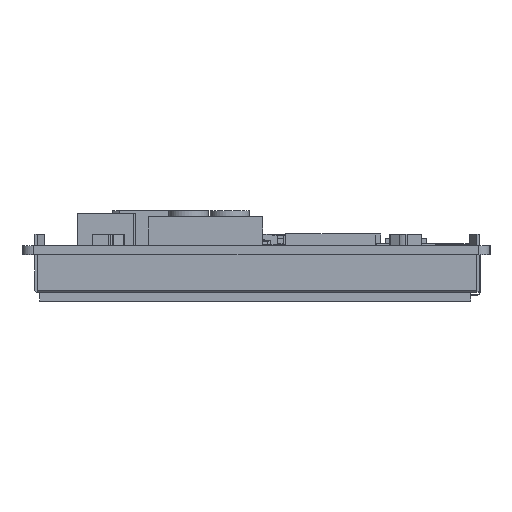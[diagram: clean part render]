
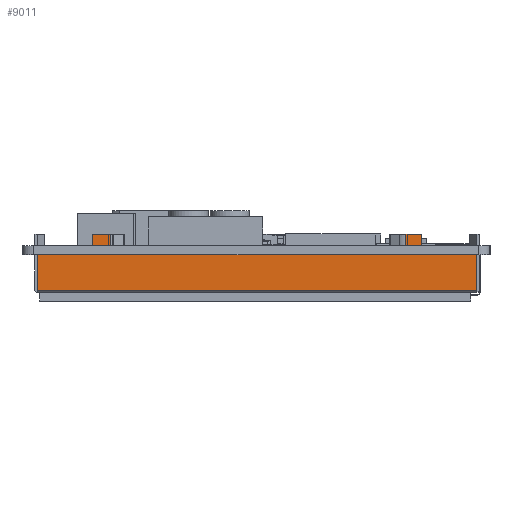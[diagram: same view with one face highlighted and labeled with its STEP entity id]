
A CAD part, left-side view. The second image highlights one B-rep face of the part: STEP entity #9011.
In plain terms, the highlighted planar face has unit normal (-1, 0, 0).
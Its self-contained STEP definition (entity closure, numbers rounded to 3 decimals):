
#4157=PLANE('',#55352);
#6555=FACE_OUTER_BOUND('',#12114,.T.);
#9011=ADVANCED_FACE('',(#6555),#4157,.F.);
#12114=EDGE_LOOP('',(#25189,#25190,#25191,#25192,#25193,#25194,#25195,#25196,
#25197,#25198,#25199,#25200,#25201,#25202,#25203,#25204));
#25189=ORIENTED_EDGE('',*,*,#37495,.F.);
#25190=ORIENTED_EDGE('',*,*,#37496,.T.);
#25191=ORIENTED_EDGE('',*,*,#37497,.T.);
#25192=ORIENTED_EDGE('',*,*,#37492,.T.);
#25193=ORIENTED_EDGE('',*,*,#37498,.T.);
#25194=ORIENTED_EDGE('',*,*,#37499,.F.);
#25195=ORIENTED_EDGE('',*,*,#37500,.T.);
#25196=ORIENTED_EDGE('',*,*,#37501,.F.);
#25197=ORIENTED_EDGE('',*,*,#37502,.F.);
#25198=ORIENTED_EDGE('',*,*,#37488,.T.);
#25199=ORIENTED_EDGE('',*,*,#37503,.T.);
#25200=ORIENTED_EDGE('',*,*,#37504,.T.);
#25201=ORIENTED_EDGE('',*,*,#37505,.F.);
#25202=ORIENTED_EDGE('',*,*,#37506,.F.);
#25203=ORIENTED_EDGE('',*,*,#37507,.F.);
#25204=ORIENTED_EDGE('',*,*,#37486,.T.);
#30651=VERTEX_POINT('',#82060);
#30653=VERTEX_POINT('',#82064);
#30654=VERTEX_POINT('',#82068);
#30656=VERTEX_POINT('',#82071);
#30658=VERTEX_POINT('',#82077);
#30660=VERTEX_POINT('',#82080);
#30662=VERTEX_POINT('',#82086);
#30663=VERTEX_POINT('',#82088);
#30664=VERTEX_POINT('',#82091);
#30665=VERTEX_POINT('',#82093);
#30666=VERTEX_POINT('',#82095);
#30667=VERTEX_POINT('',#82097);
#30668=VERTEX_POINT('',#82100);
#30669=VERTEX_POINT('',#82102);
#30670=VERTEX_POINT('',#82104);
#30671=VERTEX_POINT('',#82106);
#37486=EDGE_CURVE('',#30651,#30653,#44939,.T.);
#37488=EDGE_CURVE('',#30656,#30654,#44941,.T.);
#37492=EDGE_CURVE('',#30660,#30658,#44945,.T.);
#37495=EDGE_CURVE('',#30662,#30653,#44948,.T.);
#37496=EDGE_CURVE('',#30662,#30663,#44949,.T.);
#37497=EDGE_CURVE('',#30663,#30660,#44950,.T.);
#37498=EDGE_CURVE('',#30658,#30664,#44951,.T.);
#37499=EDGE_CURVE('',#30665,#30664,#44952,.T.);
#37500=EDGE_CURVE('',#30665,#30666,#44953,.T.);
#37501=EDGE_CURVE('',#30667,#30666,#44954,.T.);
#37502=EDGE_CURVE('',#30656,#30667,#44955,.T.);
#37503=EDGE_CURVE('',#30654,#30668,#44956,.T.);
#37504=EDGE_CURVE('',#30668,#30669,#44957,.T.);
#37505=EDGE_CURVE('',#30670,#30669,#44958,.T.);
#37506=EDGE_CURVE('',#30671,#30670,#44959,.T.);
#37507=EDGE_CURVE('',#30651,#30671,#44960,.T.);
#44939=LINE('',#82065,#51122);
#44941=LINE('',#82070,#51124);
#44945=LINE('',#82079,#51128);
#44948=LINE('',#82085,#51131);
#44949=LINE('',#82087,#51132);
#44950=LINE('',#82089,#51133);
#44951=LINE('',#82090,#51134);
#44952=LINE('',#82092,#51135);
#44953=LINE('',#82094,#51136);
#44954=LINE('',#82096,#51137);
#44955=LINE('',#82098,#51138);
#44956=LINE('',#82099,#51139);
#44957=LINE('',#82101,#51140);
#44958=LINE('',#82103,#51141);
#44959=LINE('',#82105,#51142);
#44960=LINE('',#82107,#51143);
#51122=VECTOR('',#67366,1.);
#51124=VECTOR('',#67370,1.);
#51128=VECTOR('',#67376,1.);
#51131=VECTOR('',#67381,1.);
#51132=VECTOR('',#67382,1.);
#51133=VECTOR('',#67383,1.);
#51134=VECTOR('',#67384,1.);
#51135=VECTOR('',#67385,1.);
#51136=VECTOR('',#67386,1.);
#51137=VECTOR('',#67387,1.);
#51138=VECTOR('',#67388,1.);
#51139=VECTOR('',#67389,1.);
#51140=VECTOR('',#67390,1.);
#51141=VECTOR('',#67391,1.);
#51142=VECTOR('',#67392,1.);
#51143=VECTOR('',#67393,1.);
#55352=AXIS2_PLACEMENT_3D('',#82108,#67394,#67395);
#67366=DIRECTION('',(0.,1.,0.));
#67370=DIRECTION('',(0.,1.,0.));
#67376=DIRECTION('',(0.,1.,0.));
#67381=DIRECTION('',(0.,0.,1.));
#67382=DIRECTION('',(0.,-1.,0.));
#67383=DIRECTION('',(0.,0.,1.));
#67384=DIRECTION('',(0.,0.,1.));
#67385=DIRECTION('',(0.,-1.,0.));
#67386=DIRECTION('',(0.,0.,-1.));
#67387=DIRECTION('',(0.,-1.,0.));
#67388=DIRECTION('',(0.,0.,1.));
#67389=DIRECTION('',(0.,0.,1.));
#67390=DIRECTION('',(0.,-1.,0.));
#67391=DIRECTION('',(0.,0.,-1.));
#67392=DIRECTION('',(0.,-1.,0.));
#67393=DIRECTION('',(0.,0.,1.));
#67394=DIRECTION('',(1.,0.,0.));
#67395=DIRECTION('',(0.,1.,0.));
#82060=CARTESIAN_POINT('',(59.66,45.295,-1.6));
#82064=CARTESIAN_POINT('',(59.66,54.82,-1.6));
#82065=CARTESIAN_POINT('',(59.66,-21.2,-1.6));
#82068=CARTESIAN_POINT('',(59.66,42.295,-1.6));
#82070=CARTESIAN_POINT('',(59.66,-21.2,-1.6));
#82071=CARTESIAN_POINT('',(59.66,-8.635,-1.6));
#82077=CARTESIAN_POINT('',(59.66,-11.635,-1.6));
#82079=CARTESIAN_POINT('',(59.66,-21.2,-1.6));
#82080=CARTESIAN_POINT('',(59.66,-21.2,-1.6));
#82085=CARTESIAN_POINT('',(59.66,54.82,-8.1));
#82086=CARTESIAN_POINT('',(59.66,54.82,-7.7));
#82087=CARTESIAN_POINT('',(59.66,-21.2,-7.7));
#82088=CARTESIAN_POINT('',(59.66,-21.2,-7.7));
#82089=CARTESIAN_POINT('',(59.66,-21.2,-8.1));
#82090=CARTESIAN_POINT('',(59.66,-11.635,-1.6));
#82091=CARTESIAN_POINT('',(59.66,-11.635,2.));
#82092=CARTESIAN_POINT('',(59.66,-8.924,2.));
#82093=CARTESIAN_POINT('',(59.66,-8.924,2.));
#82094=CARTESIAN_POINT('',(59.66,-8.924,2.));
#82095=CARTESIAN_POINT('',(59.66,-8.924,0.));
#82096=CARTESIAN_POINT('',(59.66,-8.635,0.));
#82097=CARTESIAN_POINT('',(59.66,-8.635,0.));
#82098=CARTESIAN_POINT('',(59.66,-8.635,-1.6));
#82099=CARTESIAN_POINT('',(59.66,42.295,-1.6));
#82100=CARTESIAN_POINT('',(59.66,42.295,0.));
#82101=CARTESIAN_POINT('',(59.66,45.295,0.));
#82102=CARTESIAN_POINT('',(59.66,42.191,0.));
#82103=CARTESIAN_POINT('',(59.66,42.191,2.));
#82104=CARTESIAN_POINT('',(59.66,42.191,2.));
#82105=CARTESIAN_POINT('',(59.66,45.295,2.));
#82106=CARTESIAN_POINT('',(59.66,45.295,2.));
#82107=CARTESIAN_POINT('',(59.66,45.295,-1.6));
#82108=CARTESIAN_POINT('',(59.66,-21.2,-8.1));
